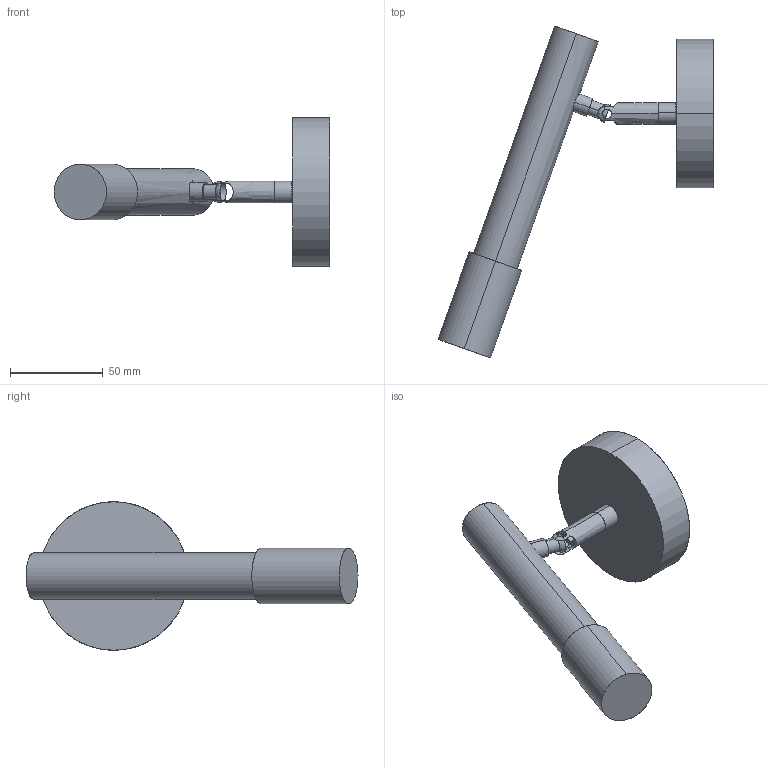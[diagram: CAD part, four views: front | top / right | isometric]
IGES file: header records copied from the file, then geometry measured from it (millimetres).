
Start section: SolidWorks IGES file using analytic representation for surfaces
Global section: file name: C:\Users\Agus\Desktop\NOVEDADES SEPT 2022 - copia\YCRO\T1279\T1279.IGS; native system: SolidWorks 2018; preprocessor: SolidWorks 2018; author: Agus; date: 220622.130310; units: millimetre
Bounding box: 148.59 x 178.8 x 80 mm (x, y, z)
Surface area: 36704.5 mm2 (no closed solid volume)
Topology: 0 solids, 0 shells, 54 faces, 1372 edges, 1369 vertices
Faces by surface type: revolution 34, bspline 20
